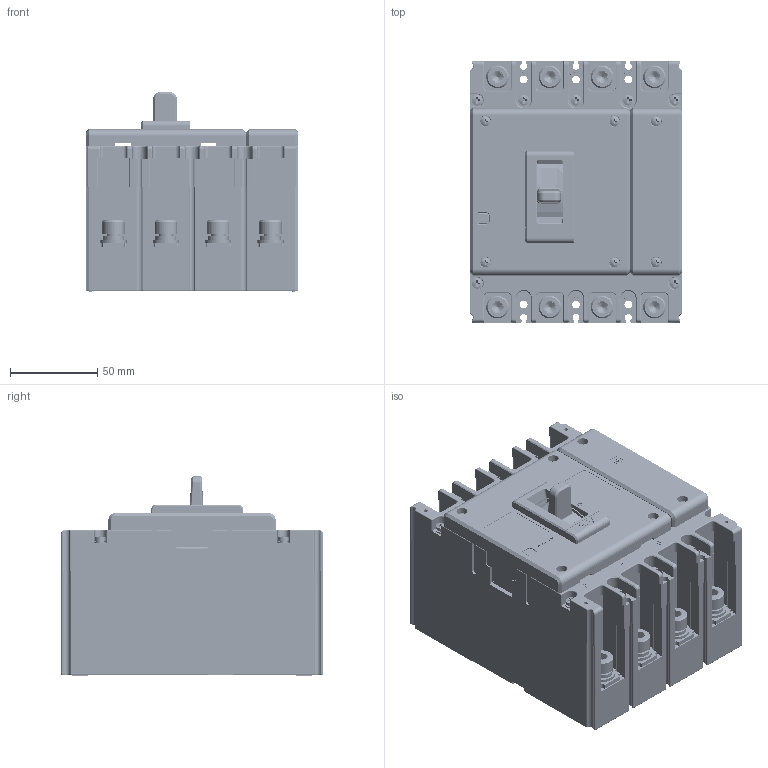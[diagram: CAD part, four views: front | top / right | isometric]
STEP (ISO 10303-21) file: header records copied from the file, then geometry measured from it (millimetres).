
FILE_DESCRIPTION((''),'2;1');
FILE_NAME('2253030800_ASM_29_ASM_1_ASM','2025-04-28T',('Administrator'),(''),'PRO/ENGINEER BY PARAMETRIC TECHNOLOGY CORPORATION, 2015440','PRO/ENGINEER BY PARAMETRIC TECHNOLOGY CORPORATION, 2015440','');
FILE_SCHEMA(('CONFIG_CONTROL_DESIGN'));
Products named in the file (49): JZ8024045000_178_1; GB_T809_M3_5X12_4_1; 5024045000_ASM_80_ASM_1_ASM; 70801007_GB_T6170_M8_2_1; 8585065400_6_1; 5551102700_ASM_15_ASM_1_ASM; 5551102800_ASM_13_ASM_1_ASM; 5551102900_ASM_17_ASM_1_ASM; 7010100312J_GB_T823_M3X20_7_1; 7090300201_GB_T93_3_10_1; GB_T97_4_3_3_1; 5850006000_ASM_2_ASM_1_ASM; GB_T823-M3_5X10_7_1; 8950019500_5_1; 5850004500_ASM_1_ASM_1_ASM; GB_T818-M3X8_3_1; 8950022000_1_1; 5850005300_ASM_2_ASM_1_ASM; 8585065500_6_1; 5420038100_ASM_5_ASM_1_ASM; 5420038200_ASM_3_ASM_1_ASM; 5615027400_ASM_6_ASM_1_ASM; 7010100503_GB_T9074_4_M4X8_3_1; GB_T823-M3_5X30_7_1; 5850007200_ASM_4_ASM_1_ASM; 8585065200_4_1; MANIFOLD_SOLID_BREP_237137_1; 85050247P03_11_ASM_1_ASM; 5510012800_ASM_1_ASM_1_ASM; 5295009200_ASM_39_ASM_1_ASM; 8742105400_13_1; 8742105300_1_1; 8253076900_21_1; 5253029000_ASM_21_ASM_1_ASM; 8750031500_1_1; 8315096200_106_1; 8282073000_AF0_2_1; 8253076800_16_1; 5315051100_ASM_13_ASM_1_ASM; 8315096300_52_1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
Assembly tree (116 placements, depth 6):
  2253030800_ASM_29_ASM_1_ASM
    5295009200_ASM_39_ASM_1_ASM
      5024045000_ASM_80_ASM_1_ASM
        JZ8024045000_178_1
        GB_T809_M3_5X12_4_1  x7
      70801007_GB_T6170_M8_2_1  x8
      5551102900_ASM_17_ASM_1_ASM  x4
        5551102800_ASM_13_ASM_1_ASM
          5551102700_ASM_15_ASM_1_ASM
            8585065400_6_1
      5850006000_ASM_2_ASM_1_ASM  x4
        7010100312J_GB_T823_M3X20_7_1
        7090300201_GB_T93_3_10_1
        GB_T97_4_3_3_1
      5850004500_ASM_1_ASM_1_ASM  x8
        GB_T823-M3_5X10_7_1
        7090300201_GB_T93_3_10_1
        8950019500_5_1
      5850005300_ASM_2_ASM_1_ASM  x3
        GB_T818-M3X8_3_1
        7090300201_GB_T93_3_10_1
        8950022000_1_1
      5615027400_ASM_6_ASM_1_ASM  x3
        5420038200_ASM_3_ASM_1_ASM
          5420038100_ASM_5_ASM_1_ASM
            8585065500_6_1
      7010100503_GB_T9074_4_M4X8_3_1  x3
      5850007200_ASM_4_ASM_1_ASM  x4
        GB_T823-M3_5X30_7_1
        7090300201_GB_T93_3_10_1
        8950019500_5_1
      5510012800_ASM_1_ASM_1_ASM
        8585065200_4_1  x2
        85050247P03_11_ASM_1_ASM
          MANIFOLD_SOLID_BREP_237137_1
    8742105400_13_1  x4
    8742105300_1_1  x4
    5253029000_ASM_21_ASM_1_ASM
      8253076900_21_1
    8750031500_1_1  x4
    5315052200_ASM_18_ASM_1_ASM
      5315051100_ASM_13_ASM_1_ASM
        8315096200_106_1
        8282073000_AF0_2_1
        8253076800_16_1
      8315096300_52_1
      8315096400_57_1
      7020100411_GB13806_2_ST2_9X8_A_  x6
    5850007200_ASM_4_ASM_1_ASM  x7
      GB_T823-M3_5X30_7_1
      7090300201_GB_T93_3_10_1
      8950019500_5_1
    5850008100_ASM_5_ASM_1_ASM  x8
      7010600401L_GB_T70_1_M8X16_1_1
      7090370701K_GB_T93_8_10_1
      GB_T97_4_8_3_1
    8750038500_11_1
Bounding box: 122 x 150 x 114.63 mm (x, y, z)
Volume: 1279881 mm3; surface area: 360501.1 mm2
Topology: 156 solids, 156 shells, 7633 faces, 20162 edges, 12992 vertices
Faces by surface type: plane 4498, cylinder 2038, cone 390, torus 234, extrusion 213, sphere 146, bspline 114
Entity records: 184196 total; most frequent: CARTESIAN_POINT 44376, ORIENTED_EDGE 29484, DIRECTION 28172, EDGE_CURVE 14742, VECTOR 10348, LINE 10135, VERTEX_POINT 9602, AXIS2_PLACEMENT_3D 8912
